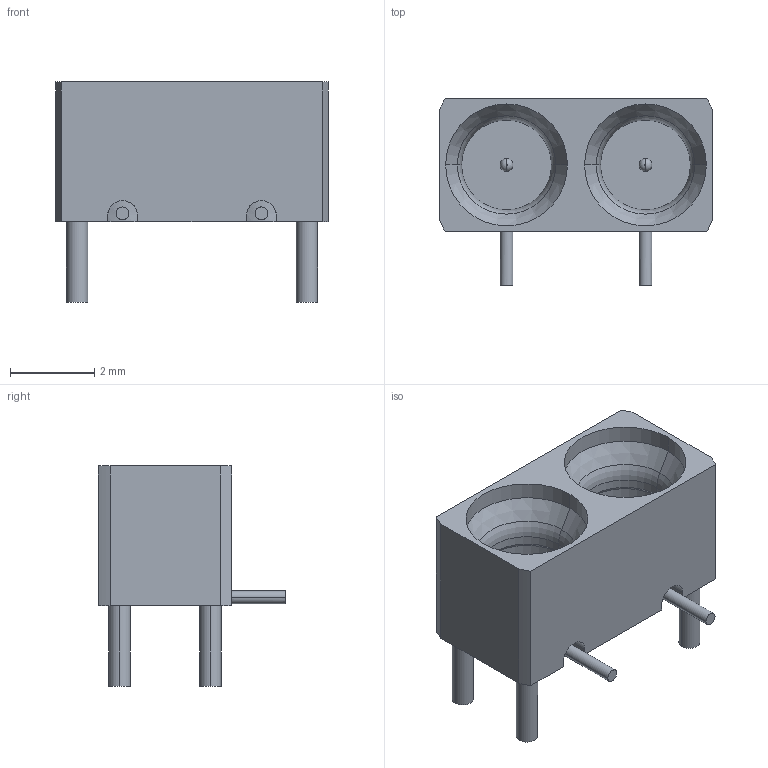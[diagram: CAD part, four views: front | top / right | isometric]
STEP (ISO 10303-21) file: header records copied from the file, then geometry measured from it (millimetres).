
FILE_DESCRIPTION (( 'STEP AP214' ), '1' );
FILE_NAME ('3211-40024.STEP', '2017-06-07T18:11:55', ( '' ), ( '' ), 'SwSTEP 2.0', 'SolidWorks 2016', '' );
FILE_SCHEMA (( 'AUTOMOTIVE_DESIGN' ));
Length unit declared in the file: inch
Products named in the file (2): 3211-40024
Bounding box: 6.48 x 4.46 x 5.23 mm (x, y, z)
Volume: 50 mm3; surface area: 150.8 mm2
Topology: 1 solids, 1 shells, 72 faces, 156 edges, 96 vertices
Faces by surface type: cylinder 36, plane 20, torus 8, cone 8
Entity records: 3059 total; most frequent: CARTESIAN_POINT 464, DIRECTION 378, ORIENTED_EDGE 312, EDGE_CURVE 156, AXIS2_PLACEMENT_3D 154, VERTEX_POINT 96, EDGE_LOOP 82, CIRCLE 80
